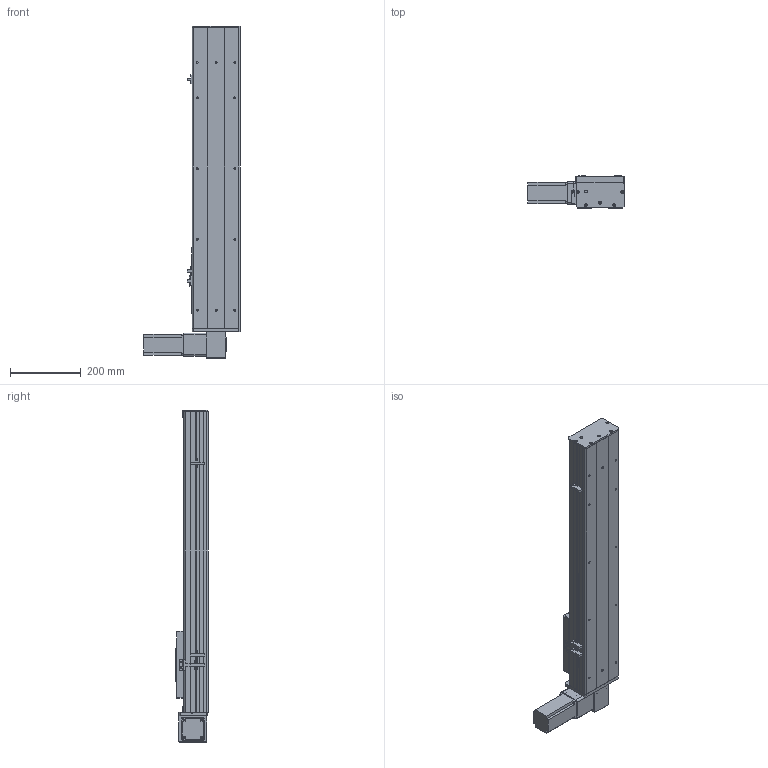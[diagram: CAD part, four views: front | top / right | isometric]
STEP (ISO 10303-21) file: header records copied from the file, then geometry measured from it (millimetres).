
FILE_DESCRIPTION (( 'STEP AP203' ), '1' );
FILE_NAME ('Y135CB-D90-S550-BD-P400W.STEP', '2020-02-19T02:57:55', ( '微软用户' ), ( '微软中国' ), 'SwSTEP 2.0', 'SolidWorks 2017', '' );
FILE_SCHEMA (( 'CONFIG_CONTROL_DESIGN' ));
Length unit declared in the file: millimetre
Products named in the file (16): Y135C-陔俋离換覜結え-; 135CB--詩湍-CE; Y135CB-耜裔; 5C--俋欶; 135CB---遴掛极.-; C-雄赽釱--; 35CB---喘謫眊楊擘啣; Y10B--々湍喘謫眊--666; 0B-埴倛裔啣; 0B-薊粣ん眊; 0B-源倛裔啣; Y135CB-D90-S550-BD-P400W; san松下电机400不带刹车----; 5CB --掛极耜裔啣-; Y100-135俋离換覜ん--; C-詩湍揤踡え-陔
Assembly tree (19 placements, depth 2):
  Y135CB-D90-S550-BD-P400W
    Y135CB-耜裔
    135CB---遴掛极.-
    35CB---喘謫眊楊擘啣
    0B-埴倛裔啣
    0B-源倛裔啣
    san松下电机400不带刹车----
    5CB --掛极耜裔啣-  x2
    C-詩湍揤踡え-陔  x2
    135CB--詩湍-CE
    Y100-135俋离換覜ん--  x3
    Y135C-陔俋离換覜結え-
    5C--俋欶
    C-雄赽釱--
    Y10B--々湍喘謫眊--666
    0B-薊粣ん眊
Bounding box: 272 x 91 x 938 mm (x, y, z)
Volume: 3218125.4 mm3; surface area: 1203388.3 mm2
Topology: 19 solids, 19 shells, 847 faces, 2230 edges, 1476 vertices
Faces by surface type: cylinder 416, plane 415, cone 16
Entity records: 25602 total; most frequent: DIRECTION 4266, CARTESIAN_POINT 4159, ORIENTED_EDGE 3936, EDGE_CURVE 1968, AXIS2_PLACEMENT_3D 1559, VERTEX_POINT 1304, VECTOR 1148, LINE 1148
